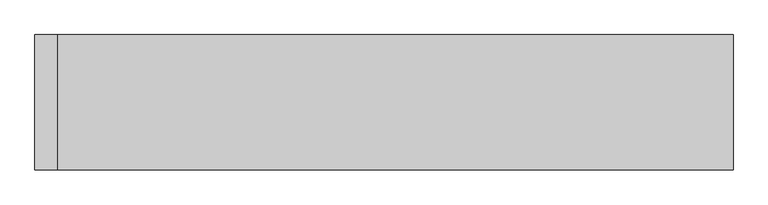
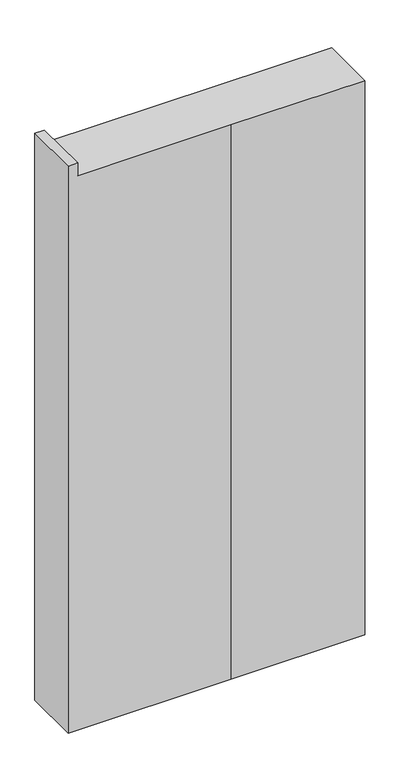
"""IFC4 building model written with IfcOpenShell, lengths in millimetres: proxy geometry."""

from ifc_helpers import new_model, si_unit, origin, place, context, project, spatial, faceted_brep, source, transform, mapped, element, save


def generic_models_02061afc(model_context):
    return source(origin(), model_context, "Body", "Brep", [
        faceted_brep([(-21494.9988284, -18300.7903364, 3130.0), (-21494.9988284, -18600.7903364, 3130.0), (-21444.9988284, -18600.7903364, 3130.0), (-21444.9988284, -18300.7903364, 3130.0), (-19944.9988284, -18300.7903364, 0.0), (-19944.9988284, -18600.7903364, 0.0), (-20644.9988284, -18600.7903364, 0.0), (-21494.9988284, -18600.7903364, 0.0), (-21494.9988284, -18300.7903364, 0.0), (-19944.9988284, -18300.7903364, 3060.0), (-19944.9988284, -18600.7903364, 3060.0), (-21444.9988284, -18300.7903364, 3060.0), (-20644.9988284, -18600.7903364, 3060.0), (-21444.9988284, -18600.7903364, 3060.0)], [[[0, 1, 2, 3]], [[4, 5, 6, 7, 8]], [[5, 4, 9, 10]], [[4, 8, 0, 3, 11, 9]], [[1, 0, 8, 7]], [[7, 6, 12, 13, 2, 1]], [[6, 5, 10, 12]], [[11, 13, 12, 10, 9]], [[13, 11, 3, 2]]]),
    ])


if __name__ == "__main__":
    model = new_model("IFC4")
    model_context = context("Model", 3, world=origin())
    ifc_project = project(units=[si_unit("LENGTHUNIT", "METRE", prefix="MILLI")], contexts=[model_context])
    site = spatial("IfcSite", under=ifc_project)
    building = spatial("IfcBuilding", under=site)
    placement = place(None, origin())
    generic_models_shape = generic_models_02061afc(model_context)
    element("IfcBuildingElementProxy", 1, Name="Generic Models", at=placement, inside=building, context=model_context, shape_type="MappedRepresentation", body=[
        mapped(generic_models_shape, transform((0.0, 0.0, 0.0), x_axis=(1.0, 0.0, 0.0), y_axis=(0.0, 1.0, 0.0), z_axis=(0.0, 0.0, 1.0))),
    ])
    save(model, "model.ifc")
